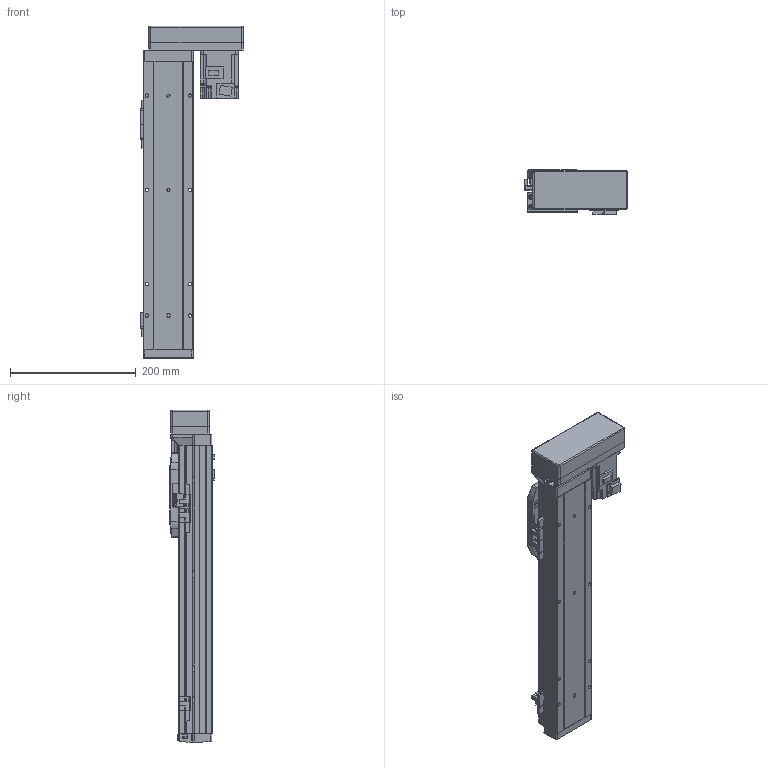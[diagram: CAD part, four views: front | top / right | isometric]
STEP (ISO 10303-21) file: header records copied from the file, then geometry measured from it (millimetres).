
FILE_DESCRIPTION (( 'STEP AP214' ), '1' );
FILE_NAME ('GSH8-300-BL-M20-1.step', '2025-01-07T06:05:27', ( '' ), ( '' ), 'SwSTEP 2.0', 'SolidWorks 2012', '' );
FILE_SCHEMA (( 'AUTOMOTIVE_DESIGN' ));
Length unit declared in the file: millimetre
Products named in the file (5): GSH8-300-BL-M20-1; GSH8-BL-008; GSH8-BL-011-300-M20; HG-KR23_200W_Motor; GSH8-GY-004
Assembly tree (4 placements, depth 2):
  GSH8-300-BL-M20-1
    GSH8-BL-011-300-M20
    GSH8-GY-004
    GSH8-BL-008
    HG-KR23_200W_Motor
Bounding box: 163 x 71.3 x 528.2 mm (x, y, z)
Volume: 1625081 mm3; surface area: 369532.8 mm2
Topology: 4 solids, 8 shells, 1103 faces, 2882 edges, 1852 vertices
Faces by surface type: plane 630, cylinder 377, torus 42, cone 26, bspline 24, sphere 4
Entity records: 43260 total; most frequent: CARTESIAN_POINT 9786, DIRECTION 5846, ORIENTED_EDGE 5748, EDGE_CURVE 2874, AXIS2_PLACEMENT_3D 1964, LINE 1918, VECTOR 1918, VERTEX_POINT 1848
